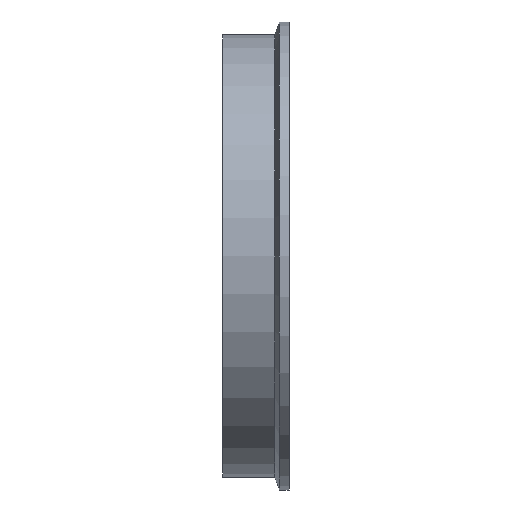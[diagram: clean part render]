
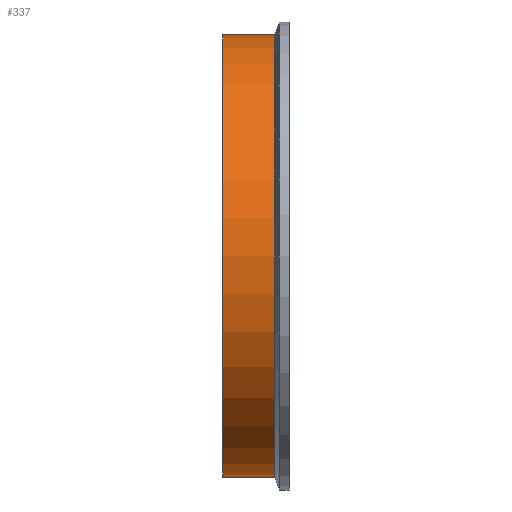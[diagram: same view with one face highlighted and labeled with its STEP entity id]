
A CAD part, left-side view. The second image highlights one B-rep face of the part: STEP entity #337.
In plain terms, the highlighted cylindrical face has radius 127 mm (diameter 254 mm), a partial arc.
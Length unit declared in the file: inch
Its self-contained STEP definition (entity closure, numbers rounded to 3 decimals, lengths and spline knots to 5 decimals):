
#12 = EDGE_LOOP ( 'NONE', ( #534, #164, #217, #471 ) ) ;
#17 = VECTOR ( 'NONE', #112, 39.37008 ) ;
#24 = AXIS2_PLACEMENT_3D ( 'NONE', #346, #312, #310 ) ;
#34 = CARTESIAN_POINT ( 'NONE',  ( 0., 0.32373, 5. ) ) ;
#44 = EDGE_CURVE ( 'NONE', #263, #181, #113, .T. ) ;
#68 = EDGE_CURVE ( 'NONE', #181, #412, #188, .T. ) ;
#89 = AXIS2_PLACEMENT_3D ( 'NONE', #342, #338, #328 ) ;
#93 = CARTESIAN_POINT ( 'NONE',  ( 0., 0., 5. ) ) ;
#101 = DIRECTION ( 'NONE',  ( 0., -1., 0. ) ) ;
#102 = CIRCLE ( 'NONE', #24, 5. ) ;
#112 = DIRECTION ( 'NONE',  ( 0., -1., 0. ) ) ;
#113 = LINE ( 'NONE', #93, #437 ) ;
#118 = LINE ( 'NONE', #193, #17 ) ;
#142 = EDGE_CURVE ( 'NONE', #231, #412, #118, .T. ) ;
#164 = ORIENTED_EDGE ( 'NONE', *, *, #333, .T. ) ;
#181 = VERTEX_POINT ( 'NONE', #34 ) ;
#188 = CIRCLE ( 'NONE', #89, 5. ) ;
#193 = CARTESIAN_POINT ( 'NONE',  ( 0., 0., -5. ) ) ;
#217 = ORIENTED_EDGE ( 'NONE', *, *, #142, .T. ) ;
#231 = VERTEX_POINT ( 'NONE', #526 ) ;
#263 = VERTEX_POINT ( 'NONE', #440 ) ;
#265 = CARTESIAN_POINT ( 'NONE',  ( 0., 0., 0. ) ) ;
#310 = DIRECTION ( 'NONE',  ( 0., 0., -1. ) ) ;
#312 = DIRECTION ( 'NONE',  ( 0., -1., 0. ) ) ;
#328 = DIRECTION ( 'NONE',  ( 0., 0., -1. ) ) ;
#333 = EDGE_CURVE ( 'NONE', #263, #231, #102, .T. ) ;
#337 = ADVANCED_FACE ( 'NONE', ( #456 ), #533, .T. ) ;
#338 = DIRECTION ( 'NONE',  ( 0., -1., 0. ) ) ;
#342 = CARTESIAN_POINT ( 'NONE',  ( 0., 0.32373, 0. ) ) ;
#346 = CARTESIAN_POINT ( 'NONE',  ( 0., 1.5, 0. ) ) ;
#349 = DIRECTION ( 'NONE',  ( 0., -1., 0. ) ) ;
#357 = CARTESIAN_POINT ( 'NONE',  ( 0., 0.32373, -5. ) ) ;
#386 = DIRECTION ( 'NONE',  ( 0., 0., -1. ) ) ;
#412 = VERTEX_POINT ( 'NONE', #357 ) ;
#437 = VECTOR ( 'NONE', #101, 39.37008 ) ;
#440 = CARTESIAN_POINT ( 'NONE',  ( 0., 1.5, 5. ) ) ;
#456 = FACE_OUTER_BOUND ( 'NONE', #12, .T. ) ;
#471 = ORIENTED_EDGE ( 'NONE', *, *, #68, .F. ) ;
#518 = AXIS2_PLACEMENT_3D ( 'NONE', #265, #349, #386 ) ;
#526 = CARTESIAN_POINT ( 'NONE',  ( 0., 1.5, -5. ) ) ;
#533 = CYLINDRICAL_SURFACE ( 'NONE', #518, 5. ) ;
#534 = ORIENTED_EDGE ( 'NONE', *, *, #44, .F. ) ;
